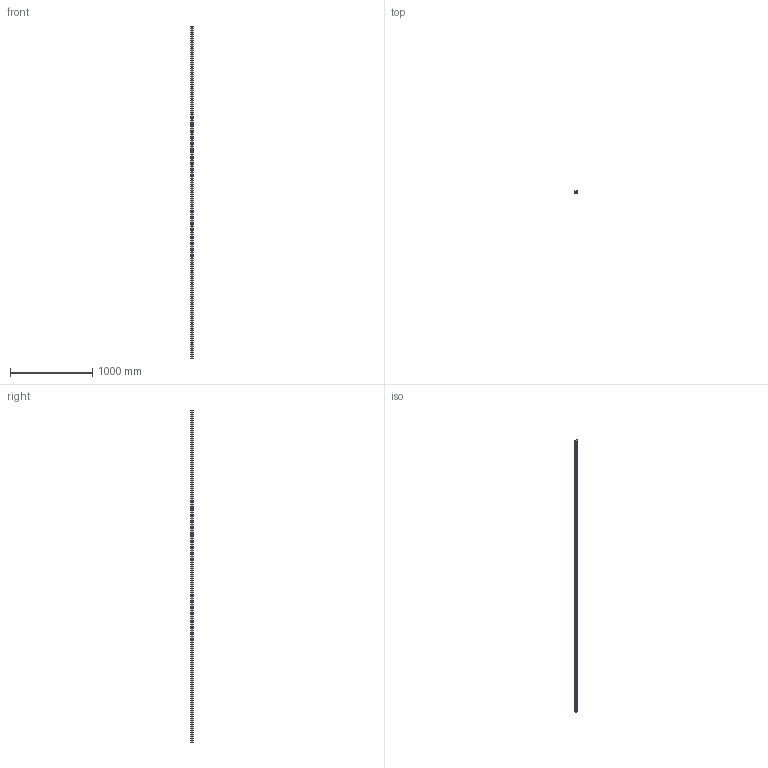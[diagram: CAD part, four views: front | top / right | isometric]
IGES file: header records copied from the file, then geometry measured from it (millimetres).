
Start section: SolidWorks IGES file using analytic representation for surfaces
Global section: file name: C:\Users\IanO\Desktop\Temp File\GENERAL\L1016_v2\L1016.RF35_v2\L1016.RF35_v2_20190612_IGES\L1016.RF35-4040.igs; native system: SolidWorks 2017; preprocessor: SolidWorks 2017; author: IanO; date: 190613.173532; units: millimetre
Bounding box: 34 x 26 x 4040 mm (x, y, z)
Surface area: 525635 mm2 (no closed solid volume)
Topology: 0 solids, 0 shells, 383 faces, 6288 edges, 6186 vertices
Faces by surface type: revolution 310, bspline 73
